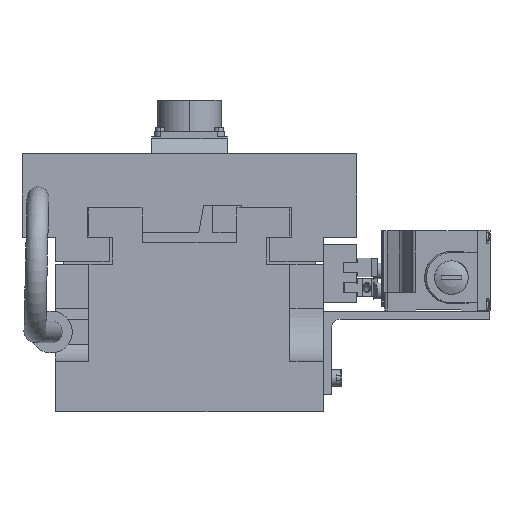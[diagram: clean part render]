
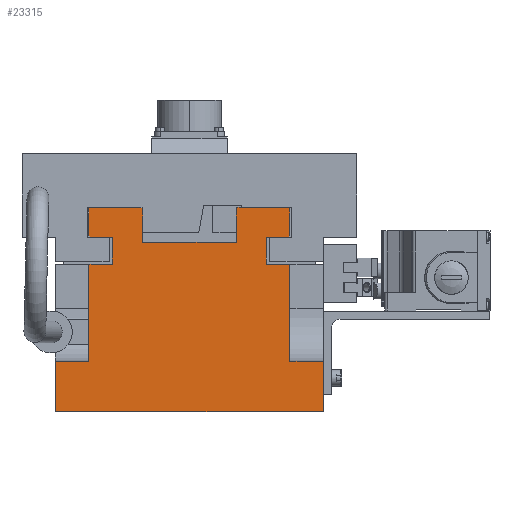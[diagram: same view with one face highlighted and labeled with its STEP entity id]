
A CAD part, front view. The second image highlights one B-rep face of the part: STEP entity #23315.
In plain terms, the highlighted planar face has unit normal (0, -1, 0).
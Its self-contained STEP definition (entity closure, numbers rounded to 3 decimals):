
#19876=CARTESIAN_POINT('',(40.605,-201.707,46.715));
#19877=VERTEX_POINT('',#19876);
#19884=CARTESIAN_POINT('',(40.605,-201.707,66.715));
#19885=VERTEX_POINT('',#19884);
#19886=CARTESIAN_POINT('',(40.605,-201.707,46.715));
#19887=DIRECTION('',(0.0,0.0,1.0));
#19888=VECTOR('',#19887,20.0);
#19889=LINE('',#19886,#19888);
#19890=EDGE_CURVE('',#19877,#19885,#19889,.T.);
#20212=CARTESIAN_POINT('',(-15.395,-201.707,66.715));
#20213=VERTEX_POINT('',#20212);
#20220=CARTESIAN_POINT('',(-15.395,-201.707,46.715));
#20221=VERTEX_POINT('',#20220);
#20222=CARTESIAN_POINT('',(-15.395,-201.707,66.715));
#20223=DIRECTION('',(0.0,0.0,-1.0));
#20224=VECTOR('',#20223,20.0);
#20225=LINE('',#20222,#20224);
#20226=EDGE_CURVE('',#20213,#20221,#20225,.T.);
#22428=CARTESIAN_POINT('',(-46.395,-201.707,67.715));
#22429=VERTEX_POINT('',#22428);
#22436=CARTESIAN_POINT('',(-16.395,-201.707,67.715));
#22437=VERTEX_POINT('',#22436);
#22438=CARTESIAN_POINT('',(-46.395,-201.707,67.715));
#22439=DIRECTION('',(1.0,0.0,0.0));
#22440=VECTOR('',#22439,30.);
#22441=LINE('',#22438,#22440);
#22442=EDGE_CURVE('',#22429,#22437,#22441,.T.);
#22884=CARTESIAN_POINT('',(-47.395,-201.707,-24.285));
#22885=VERTEX_POINT('',#22884);
#22892=CARTESIAN_POINT('',(-47.395,-201.707,33.715));
#22893=VERTEX_POINT('',#22892);
#22894=CARTESIAN_POINT('',(-47.395,-201.707,33.715));
#22895=DIRECTION('',(0.0,0.0,-1.0));
#22896=VECTOR('',#22895,58.);
#22897=LINE('',#22894,#22896);
#22898=EDGE_CURVE('',#22893,#22885,#22897,.T.);
#22929=CARTESIAN_POINT('',(-67.395,-201.707,-24.285));
#22930=VERTEX_POINT('',#22929);
#22937=CARTESIAN_POINT('',(-47.395,-201.707,-24.285));
#22938=DIRECTION('',(-1.0,0.0,0.0));
#22939=VECTOR('',#22938,20.);
#22940=LINE('',#22937,#22939);
#22941=EDGE_CURVE('',#22885,#22930,#22940,.T.);
#23004=CARTESIAN_POINT('',(72.605,-201.707,-24.285));
#23005=VERTEX_POINT('',#23004);
#23012=CARTESIAN_POINT('',(92.605,-201.707,-24.285));
#23013=VERTEX_POINT('',#23012);
#23014=CARTESIAN_POINT('',(92.605,-201.707,-24.285));
#23015=DIRECTION('',(-1.0,0.0,0.0));
#23016=VECTOR('',#23015,20.);
#23017=LINE('',#23014,#23016);
#23018=EDGE_CURVE('',#23013,#23005,#23017,.T.);
#23083=CARTESIAN_POINT('',(72.605,-201.707,33.715));
#23084=VERTEX_POINT('',#23083);
#23091=CARTESIAN_POINT('',(72.605,-201.707,-24.285));
#23092=DIRECTION('',(0.0,0.0,1.0));
#23093=VECTOR('',#23092,58.);
#23094=LINE('',#23091,#23093);
#23095=EDGE_CURVE('',#23005,#23084,#23094,.T.);
#23149=CARTESIAN_POINT('',(-67.395,-201.707,-54.285));
#23150=VERTEX_POINT('',#23149);
#23157=CARTESIAN_POINT('',(-67.395,-201.707,-54.285));
#23158=DIRECTION('',(0.0,0.0,1.0));
#23159=VECTOR('',#23158,30.);
#23160=LINE('',#23157,#23159);
#23161=EDGE_CURVE('',#23150,#22930,#23160,.T.);
#23166=CARTESIAN_POINT('',(12.605,-201.707,9.049));
#23167=DIRECTION('',(0.0,-1.0,0.0));
#23168=DIRECTION('',(1.0,0.0,0.0));
#23169=AXIS2_PLACEMENT_3D('',#23166,#23167,#23168);
#23170=PLANE('',#23169);
#23171=ORIENTED_EDGE('',*,*,#22898,.T.);
#23172=ORIENTED_EDGE('',*,*,#22941,.T.);
#23173=ORIENTED_EDGE('',*,*,#23161,.F.);
#23174=CARTESIAN_POINT('',(92.605,-201.707,-54.285));
#23175=VERTEX_POINT('',#23174);
#23176=CARTESIAN_POINT('',(92.605,-201.707,-54.285));
#23177=DIRECTION('',(-1.0,0.0,0.0));
#23178=VECTOR('',#23177,160.0);
#23179=LINE('',#23176,#23178);
#23180=EDGE_CURVE('',#23175,#23150,#23179,.T.);
#23181=ORIENTED_EDGE('',*,*,#23180,.F.);
#23182=CARTESIAN_POINT('',(92.605,-201.707,-24.285));
#23183=DIRECTION('',(0.0,0.0,-1.0));
#23184=VECTOR('',#23183,30.);
#23185=LINE('',#23182,#23184);
#23186=EDGE_CURVE('',#23013,#23175,#23185,.T.);
#23187=ORIENTED_EDGE('',*,*,#23186,.F.);
#23188=ORIENTED_EDGE('',*,*,#23018,.T.);
#23189=ORIENTED_EDGE('',*,*,#23095,.T.);
#23190=CARTESIAN_POINT('',(58.605,-201.707,33.715));
#23191=VERTEX_POINT('',#23190);
#23192=CARTESIAN_POINT('',(58.605,-201.707,33.715));
#23193=DIRECTION('',(1.0,0.0,0.0));
#23194=VECTOR('',#23193,14.);
#23195=LINE('',#23192,#23194);
#23196=EDGE_CURVE('',#23191,#23084,#23195,.T.);
#23197=ORIENTED_EDGE('',*,*,#23196,.F.);
#23198=CARTESIAN_POINT('',(58.605,-201.707,49.715));
#23199=VERTEX_POINT('',#23198);
#23200=CARTESIAN_POINT('',(58.605,-201.707,49.715));
#23201=DIRECTION('',(0.0,0.0,-1.0));
#23202=VECTOR('',#23201,16.);
#23203=LINE('',#23200,#23202);
#23204=EDGE_CURVE('',#23199,#23191,#23203,.T.);
#23205=ORIENTED_EDGE('',*,*,#23204,.F.);
#23206=CARTESIAN_POINT('',(71.605,-201.707,49.715));
#23207=VERTEX_POINT('',#23206);
#23208=CARTESIAN_POINT('',(71.605,-201.707,49.715));
#23209=DIRECTION('',(-1.0,0.0,0.0));
#23210=VECTOR('',#23209,13.);
#23211=LINE('',#23208,#23210);
#23212=EDGE_CURVE('',#23207,#23199,#23211,.T.);
#23213=ORIENTED_EDGE('',*,*,#23212,.F.);
#23214=CARTESIAN_POINT('',(72.605,-201.707,50.715));
#23215=VERTEX_POINT('',#23214);
#23216=CARTESIAN_POINT('',(72.605,-201.707,50.715));
#23217=DIRECTION('',(-0.707,0.0,-0.707));
#23218=VECTOR('',#23217,1.414);
#23219=LINE('',#23216,#23218);
#23220=EDGE_CURVE('',#23215,#23207,#23219,.T.);
#23221=ORIENTED_EDGE('',*,*,#23220,.F.);
#23222=CARTESIAN_POINT('',(72.605,-201.707,66.715));
#23223=VERTEX_POINT('',#23222);
#23224=CARTESIAN_POINT('',(72.605,-201.707,66.715));
#23225=DIRECTION('',(0.0,0.0,-1.0));
#23226=VECTOR('',#23225,16.);
#23227=LINE('',#23224,#23226);
#23228=EDGE_CURVE('',#23223,#23215,#23227,.T.);
#23229=ORIENTED_EDGE('',*,*,#23228,.F.);
#23230=CARTESIAN_POINT('',(71.605,-201.707,67.715));
#23231=VERTEX_POINT('',#23230);
#23232=CARTESIAN_POINT('',(71.605,-201.707,67.715));
#23233=DIRECTION('',(0.707,0.0,-0.707));
#23234=VECTOR('',#23233,1.414);
#23235=LINE('',#23232,#23234);
#23236=EDGE_CURVE('',#23231,#23223,#23235,.T.);
#23237=ORIENTED_EDGE('',*,*,#23236,.F.);
#23238=CARTESIAN_POINT('',(41.605,-201.707,67.715));
#23239=VERTEX_POINT('',#23238);
#23240=CARTESIAN_POINT('',(41.605,-201.707,67.715));
#23241=DIRECTION('',(1.0,0.0,0.0));
#23242=VECTOR('',#23241,30.);
#23243=LINE('',#23240,#23242);
#23244=EDGE_CURVE('',#23239,#23231,#23243,.T.);
#23245=ORIENTED_EDGE('',*,*,#23244,.F.);
#23246=CARTESIAN_POINT('',(40.605,-201.707,66.715));
#23247=DIRECTION('',(0.707,0.0,0.707));
#23248=VECTOR('',#23247,1.414);
#23249=LINE('',#23246,#23248);
#23250=EDGE_CURVE('',#19885,#23239,#23249,.T.);
#23251=ORIENTED_EDGE('',*,*,#23250,.F.);
#23252=ORIENTED_EDGE('',*,*,#19890,.F.);
#23253=CARTESIAN_POINT('',(-15.395,-201.707,46.715));
#23254=DIRECTION('',(1.0,0.0,0.0));
#23255=VECTOR('',#23254,56.0);
#23256=LINE('',#23253,#23255);
#23257=EDGE_CURVE('',#20221,#19877,#23256,.T.);
#23258=ORIENTED_EDGE('',*,*,#23257,.F.);
#23259=ORIENTED_EDGE('',*,*,#20226,.F.);
#23260=CARTESIAN_POINT('',(-16.395,-201.707,67.715));
#23261=DIRECTION('',(0.707,0.0,-0.707));
#23262=VECTOR('',#23261,1.414);
#23263=LINE('',#23260,#23262);
#23264=EDGE_CURVE('',#22437,#20213,#23263,.T.);
#23265=ORIENTED_EDGE('',*,*,#23264,.F.);
#23266=ORIENTED_EDGE('',*,*,#22442,.F.);
#23267=CARTESIAN_POINT('',(-47.395,-201.707,66.715));
#23268=VERTEX_POINT('',#23267);
#23269=CARTESIAN_POINT('',(-47.395,-201.707,66.715));
#23270=DIRECTION('',(0.707,0.0,0.707));
#23271=VECTOR('',#23270,1.414);
#23272=LINE('',#23269,#23271);
#23273=EDGE_CURVE('',#23268,#22429,#23272,.T.);
#23274=ORIENTED_EDGE('',*,*,#23273,.F.);
#23275=CARTESIAN_POINT('',(-47.395,-201.707,50.715));
#23276=VERTEX_POINT('',#23275);
#23277=CARTESIAN_POINT('',(-47.395,-201.707,50.715));
#23278=DIRECTION('',(0.0,0.0,1.0));
#23279=VECTOR('',#23278,16.);
#23280=LINE('',#23277,#23279);
#23281=EDGE_CURVE('',#23276,#23268,#23280,.T.);
#23282=ORIENTED_EDGE('',*,*,#23281,.F.);
#23283=CARTESIAN_POINT('',(-46.395,-201.707,49.715));
#23284=VERTEX_POINT('',#23283);
#23285=CARTESIAN_POINT('',(-46.395,-201.707,49.715));
#23286=DIRECTION('',(-0.707,0.0,0.707));
#23287=VECTOR('',#23286,1.414);
#23288=LINE('',#23285,#23287);
#23289=EDGE_CURVE('',#23284,#23276,#23288,.T.);
#23290=ORIENTED_EDGE('',*,*,#23289,.F.);
#23291=CARTESIAN_POINT('',(-33.395,-201.707,49.715));
#23292=VERTEX_POINT('',#23291);
#23293=CARTESIAN_POINT('',(-33.395,-201.707,49.715));
#23294=DIRECTION('',(-1.0,0.0,0.0));
#23295=VECTOR('',#23294,13.);
#23296=LINE('',#23293,#23295);
#23297=EDGE_CURVE('',#23292,#23284,#23296,.T.);
#23298=ORIENTED_EDGE('',*,*,#23297,.F.);
#23299=CARTESIAN_POINT('',(-33.395,-201.707,33.715));
#23300=VERTEX_POINT('',#23299);
#23301=CARTESIAN_POINT('',(-33.395,-201.707,33.715));
#23302=DIRECTION('',(0.0,0.0,1.0));
#23303=VECTOR('',#23302,16.);
#23304=LINE('',#23301,#23303);
#23305=EDGE_CURVE('',#23300,#23292,#23304,.T.);
#23306=ORIENTED_EDGE('',*,*,#23305,.F.);
#23307=CARTESIAN_POINT('',(-47.395,-201.707,33.715));
#23308=DIRECTION('',(1.0,0.0,0.0));
#23309=VECTOR('',#23308,14.);
#23310=LINE('',#23307,#23309);
#23311=EDGE_CURVE('',#22893,#23300,#23310,.T.);
#23312=ORIENTED_EDGE('',*,*,#23311,.F.);
#23313=EDGE_LOOP('',(#23171,#23172,#23173,#23181,#23187,#23188,#23189,#23197,#23205,#23213,#23221,#23229,#23237,#23245,#23251,#23252,#23258,#23259,#23265,#23266,#23274,#23282,#23290,#23298,#23306,#23312));
#23314=FACE_OUTER_BOUND('',#23313,.T.);
#23315=ADVANCED_FACE('',(#23314),#23170,.T.);
